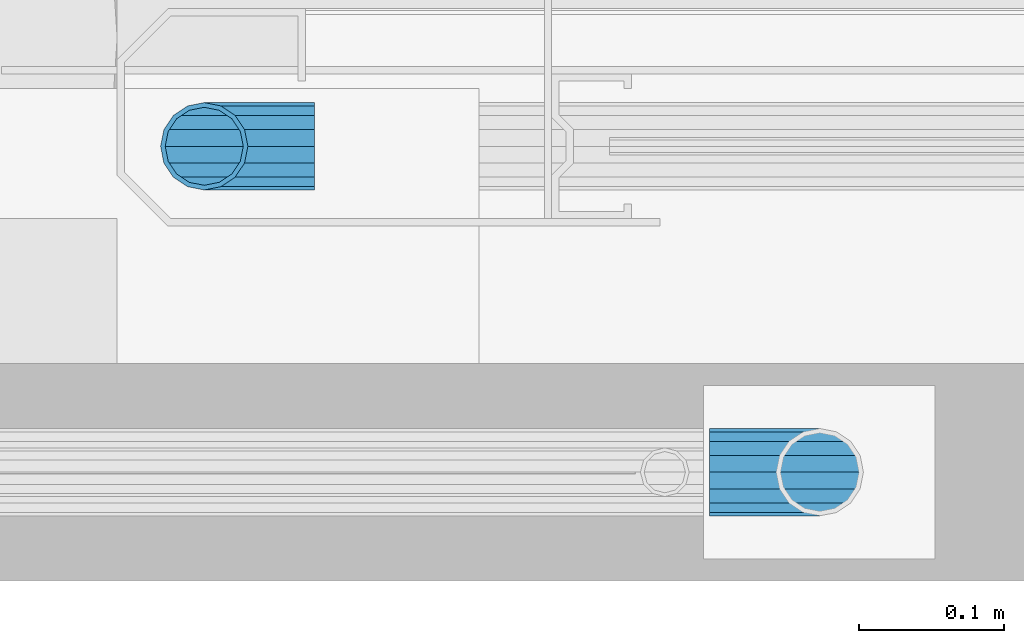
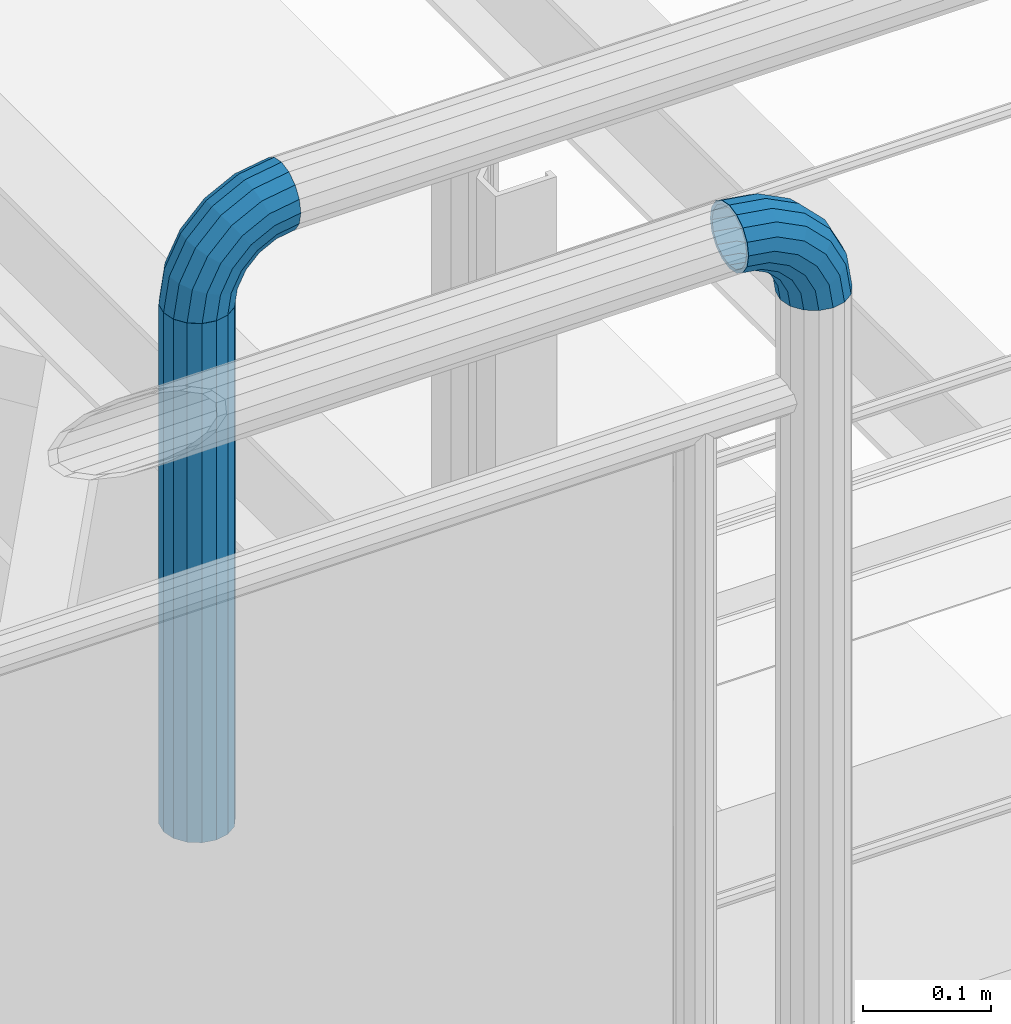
# One storey, part 20 of 31: 3 beams.
"""IFC2X3 building model written with IfcOpenShell, lengths in millimetres."""

from ifc_helpers import new_model, si_unit, frame, origin_with_axes, place, context, subcontext, project, spatial, faceted_brep, material, type_object, element, save


model = new_model("IFC2X3")

# Units and contexts
model_context = context("Model", 3, precision=1e-05, world=origin_with_axes())
body_context = subcontext(model_context, "Body", "Model", "MODEL_VIEW")
ifc_project = project(units=[si_unit("LENGTHUNIT", "METRE", prefix="MILLI"), si_unit("AREAUNIT", "SQUARE_METRE"), si_unit("VOLUMEUNIT", "CUBIC_METRE"), si_unit("MASSUNIT", "GRAM", prefix="KILO"), si_unit("TIMEUNIT", "SECOND"), si_unit("PLANEANGLEUNIT", "RADIAN"), si_unit("SOLIDANGLEUNIT", "STERADIAN"), si_unit("THERMODYNAMICTEMPERATUREUNIT", "DEGREE_CELSIUS"), si_unit("LUMINOUSINTENSITYUNIT", "LUMEN")], contexts=[model_context])

# Site, building, storey
site_placement = place(None, origin_with_axes())
site = spatial("IfcSite", under=ifc_project, at=site_placement, Name="Undefined", CompositionType="ELEMENT")
building_placement = place(site_placement, origin_with_axes())
building = spatial("IfcBuilding", under=site, at=building_placement, Name="Undefined", CompositionType="ELEMENT")
storey_placement = place(building_placement, origin_with_axes())
storey = spatial("IfcBuildingStorey", under=building, at=storey_placement, Name="Undefined", CompositionType="ELEMENT", Elevation=0.0)

# Beams
ifc_material = material(Name="STEEL/S355J2+N")
beam_type = type_object("IfcBeamType", Name="CFCHS60.3*3.2", PredefinedType="NOTDEFINED")
beam_1_placement = place(storey_placement, frame((3509.15, -625.0, 1169.85), z_axis=(1.0, 0.0, 0.0), x_axis=(0.0, 0.0, -1.0)))
element("IfcBeam", 1, at=beam_1_placement, inside=storey, type_object=beam_type, material=ifc_material, Name="LKREKKVERK", context=body_context, shape_type="Brep", body=[
    faceted_brep([(11.5379054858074, -27.8549679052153, 0.0), (21.3192694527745, -21.3192694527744, 0.0), (23.9955348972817, -21.3192694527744, 16.8972750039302), (14.6929049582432, -27.8549679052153, 19.9198826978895), (31.7623597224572, -21.3192694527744, 32.1405270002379), (23.8490700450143, -27.8549679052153, 37.8898684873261), (43.8594729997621, -21.3192694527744, 44.2376402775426), (38.1101315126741, -27.8549679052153, 52.1509299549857), (59.10272499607, -21.3192694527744, 52.0044651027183), (56.0801173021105, -27.8549679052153, 61.3070950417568), (47.7010601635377, -11.5379054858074, 38.9501491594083), (61.1223668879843, -11.5379054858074, 45.7886465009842), (37.0498508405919, -11.5379054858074, 28.2989398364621), (30.2113534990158, -11.5379054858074, 14.8776331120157), (27.8549679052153, -11.5379054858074, 0.0), (30.1500000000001, 0.0, 0.0), (32.3940587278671, 0.0, 14.1684291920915), (38.9065708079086, 0.0, 26.9499538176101), (49.0500461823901, 0.0, 37.0934291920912), (61.8315708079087, 0.0, 43.6059412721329), (47.7010601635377, 11.5379054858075, 38.9501491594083), (61.1223668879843, 11.5379054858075, 45.7886465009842), (37.0498508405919, 11.5379054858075, 28.2989398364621), (30.2113534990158, 11.5379054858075, 14.8776331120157), (27.8549679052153, 11.5379054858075, 0.0), (21.3192694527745, 21.3192694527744, 0.0), (23.9955348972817, 21.3192694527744, 16.8972750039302), (31.7623597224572, 21.3192694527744, 32.1405270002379), (43.8594729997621, 21.3192694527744, 44.2376402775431), (59.10272499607, 21.3192694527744, 52.0044651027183), (38.1101315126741, 27.8549679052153, 52.1509299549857), (56.0801173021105, 27.8549679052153, 61.3070950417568), (23.8490700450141, 27.8549679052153, 37.8898684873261), (14.6929049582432, 27.8549679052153, 19.9198826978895), (11.5379054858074, 27.8549679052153, 0.0), (0.0, 30.15, 0.0), (3.71970476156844, 30.15, 23.485291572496), (14.514708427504, 30.15, 44.6716791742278), (31.3283208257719, 30.15, 61.485291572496), (52.514708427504, 30.15, 72.2802952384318), (24.54651013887, 27.8549679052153, 70.8196531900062), (48.9492995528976, 27.8549679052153, 83.2534954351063), (5.18034680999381, 27.8549679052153, 51.45348986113), (-7.25349543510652, 27.8549679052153, 27.0507004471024), (-11.5379054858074, 27.8549679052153, 0.0), (-21.3192694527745, 21.3192694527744, 0.0), (-16.556125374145, 21.3192694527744, 30.0733081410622), (-2.73294286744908, 21.3192694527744, 57.2028313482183), (18.7971686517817, 21.3192694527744, 78.7329428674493), (45.9266918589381, 21.3192694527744, 92.5561253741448), (14.9555814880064, 11.5379054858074, 84.0204339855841), (43.9070499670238, 11.5379054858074, 98.7719439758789), (-8.02043398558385, 11.5379054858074, 61.0444185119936), (-22.7719439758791, 11.5379054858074, 32.0929500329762), (-27.8549679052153, 11.5379054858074, 0.0), (-30.1500000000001, 0.0, 0.0), (-24.9546492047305, 0.0, 32.8021539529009), (-9.8771539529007, 0.0, 62.3934045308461), (13.6065954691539, 0.0, 85.8771539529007), (43.1978460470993, 0.0, 100.954649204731), (14.9555814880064, -11.5379054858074, 84.0204339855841), (43.9070499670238, -11.5379054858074, 98.7719439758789), (-8.02043398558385, -11.5379054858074, 61.0444185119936), (-22.7719439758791, -11.5379054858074, 32.0929500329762), (-27.8549679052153, -11.5379054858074, 0.0), (-21.3192694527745, -21.3192694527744, 0.0), (-16.556125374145, -21.3192694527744, 30.0733081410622), (-2.73294286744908, -21.3192694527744, 57.2028313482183), (18.7971686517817, -21.3192694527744, 78.7329428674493), (45.9266918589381, -21.3192694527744, 92.5561253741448), (24.54651013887, -27.8549679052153, 70.8196531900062), (48.9492995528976, -27.8549679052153, 83.2534954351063), (5.18034680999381, -27.8549679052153, 51.45348986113), (-7.25349543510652, -27.8549679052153, 27.0507004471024), (-11.5379054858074, -27.8549679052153, 0.0), (0.0, -30.15, 0.0), (3.71970476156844, -30.15, 23.485291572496), (14.514708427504, -30.15, 44.6716791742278), (31.3283208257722, -30.15, 61.485291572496), (52.514708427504, -30.15, 72.2802952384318), (76.0, -30.15, 76.0), (76.0, -27.8549679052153, 87.5379054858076), (76.0, -21.3192694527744, 97.3192694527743), (76.0, -11.5379054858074, 103.854967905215), (76.0, 0.0, 106.15), (76.0, 11.5379054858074, 103.854967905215), (76.0, 21.3192694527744, 97.3192694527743), (76.0, 27.8549679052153, 87.5379054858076), (76.0, 30.15, 76.0), (76.0, 27.8549679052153, 64.4620945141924), (76.0, 21.3192694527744, 54.6807305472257), (76.0, 11.5379054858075, 48.1450320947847), (76.0, 0.0, 45.8499999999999), (76.0, -11.5379054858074, 48.1450320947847), (76.0, -21.3192694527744, 54.6807305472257), (76.0, -27.8549679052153, 64.4620945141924), (10.3133185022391, -24.8985534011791, 0.0), (19.0565277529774, -19.0565277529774, 0.0), (24.8985534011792, -10.3133185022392, 0.0), (26.95, 0.0, 0.0), (24.8985534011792, 10.3133185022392, 0.0), (19.0565277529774, 19.0565277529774, 0.0), (10.3133185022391, 24.8985534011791, 0.0), (0.0, 26.95, 0.0), (-10.3133185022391, 24.8985534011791, 0.0), (-19.0565277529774, 19.0565277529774, 0.0), (-24.8985534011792, 10.3133185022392, 0.0), (-26.95, 0.0, 0.0), (-24.8985534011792, -10.3133185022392, 0.0), (-19.0565277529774, -19.0565277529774, 0.0), (-10.3133185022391, -24.8985534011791, 0.0), (0.0, -26.95, 0.0), (3.71970476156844, -26.95, 23.485291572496), (13.5282535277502, -24.8985534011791, 20.2983008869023), (21.8435396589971, -19.0565277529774, 17.5965006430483), (27.3996362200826, -10.3133185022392, 15.7912154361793), (29.3506778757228, 0.0, 15.1572835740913), (27.3996362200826, 10.3133185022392, 15.7912154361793), (21.8435396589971, 19.0565277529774, 17.5965006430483), (13.5282535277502, 24.8985534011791, 20.2983008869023), (3.71970476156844, 26.95, 23.485291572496), (-6.08884400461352, 24.8985534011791, 26.6722822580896), (-14.4041301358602, 19.0565277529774, 29.374082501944), (-19.9602266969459, 10.3133185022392, 31.1793677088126), (-21.9112683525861, 0.0, 31.8132995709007), (-19.9602266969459, -10.3133185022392, 31.1793677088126), (-14.4041301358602, -19.0565277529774, 29.374082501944), (-6.08884400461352, -24.8985534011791, 26.6722822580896), (6.17105849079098, -24.8985534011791, 50.7336956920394), (14.514708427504, -26.95, 44.6716791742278), (22.8583583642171, -24.8985534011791, 38.6096626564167), (29.9317632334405, -19.0565277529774, 33.4705332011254), (34.6580612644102, -10.3133185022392, 30.0366766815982), (36.3177164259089, 0.0, 28.8308666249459), (34.6580612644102, 10.3133185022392, 30.0366766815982), (29.9317632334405, 19.0565277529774, 33.4705332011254), (22.8583583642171, 24.8985534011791, 38.6096626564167), (14.514708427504, 26.95, 44.6716791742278), (6.17105849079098, 24.8985534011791, 50.7336956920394), (-0.90234637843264, 19.0565277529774, 55.8728251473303), (-5.62864440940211, 10.3133185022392, 59.3066816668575), (-7.28829957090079, 0.0, 60.5124917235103), (-5.62864440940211, -10.3133185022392, 59.3066816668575), (-0.90234637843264, -19.0565277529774, 55.8728251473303), (20.1271748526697, -19.0565277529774, 76.9023463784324), (25.2663043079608, -24.8985534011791, 69.828941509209), (31.3283208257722, -26.95, 61.485291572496), (37.3903373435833, -24.8985534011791, 53.1416416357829), (42.5294667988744, -19.0565277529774, 46.0682367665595), (45.9633233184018, -10.3133185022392, 41.3419387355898), (47.1691333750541, 0.0, 39.6822835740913), (45.9633233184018, 10.3133185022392, 41.3419387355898), (42.5294667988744, 19.0565277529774, 46.0682367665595), (37.3903373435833, 24.8985534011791, 53.1416416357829), (31.3283208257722, 26.95, 61.485291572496), (25.2663043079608, 24.8985534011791, 69.828941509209), (20.1271748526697, 19.0565277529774, 76.9023463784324), (16.6933183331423, 10.3133185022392, 81.6286444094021), (15.48750827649, 0.0, 83.288299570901), (16.6933183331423, -10.3133185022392, 81.6286444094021), (44.8206322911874, -10.3133185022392, 95.9602266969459), (46.6259174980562, -19.0565277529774, 90.4041301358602), (49.3277177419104, -24.8985534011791, 82.0888440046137), (52.514708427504, -26.95, 72.2802952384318), (55.7016991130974, -24.8985534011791, 62.4717464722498), (58.4034993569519, -19.0565277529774, 54.1564603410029), (60.2087845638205, -10.3133185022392, 48.6003637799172), (60.8427164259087, 0.0, 46.6493221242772), (60.2087845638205, 10.3133185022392, 48.6003637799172), (58.4034993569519, 19.0565277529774, 54.1564603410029), (55.7016991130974, 24.8985534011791, 62.4717464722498), (52.514708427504, 26.95, 72.2802952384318), (49.3277177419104, 24.8985534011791, 82.0888440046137), (46.6259174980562, 19.0565277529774, 90.4041301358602), (44.8206322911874, 10.3133185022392, 95.9602266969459), (44.1867004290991, 0.0, 97.9112683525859), (76.0, 0.0, 102.95), (76.0, -10.3133185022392, 100.898553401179), (76.0, -19.0565277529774, 95.0565277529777), (76.0, -24.8985534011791, 86.3133185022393), (76.0, -26.95, 76.0), (76.0, -24.8985534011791, 65.6866814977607), (76.0, -19.0565277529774, 56.9434722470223), (76.0, -10.3133185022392, 51.101446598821), (76.0, 0.0, 49.0500000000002), (76.0, 10.3133185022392, 51.101446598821), (76.0, 19.0565277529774, 56.9434722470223), (76.0, 24.8985534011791, 65.6866814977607), (76.0, 26.95, 76.0), (76.0, 24.8985534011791, 86.3133185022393), (76.0, 19.0565277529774, 95.0565277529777), (76.0, 10.3133185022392, 100.898553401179)], [[[0, 1, 2, 3]], [[3, 2, 4, 5]], [[5, 4, 6, 7]], [[7, 6, 8, 9]], [[6, 10, 11, 8]], [[4, 12, 10, 6]], [[2, 13, 12, 4]], [[1, 14, 13, 2]], [[14, 15, 16, 13]], [[13, 16, 17, 12]], [[12, 17, 18, 10]], [[10, 18, 19, 11]], [[18, 20, 21, 19]], [[17, 22, 20, 18]], [[16, 23, 22, 17]], [[15, 24, 23, 16]], [[24, 25, 26, 23]], [[23, 26, 27, 22]], [[22, 27, 28, 20]], [[20, 28, 29, 21]], [[28, 30, 31, 29]], [[27, 32, 30, 28]], [[26, 33, 32, 27]], [[25, 34, 33, 26]], [[34, 35, 36, 33]], [[33, 36, 37, 32]], [[32, 37, 38, 30]], [[30, 38, 39, 31]], [[38, 40, 41, 39]], [[37, 42, 40, 38]], [[36, 43, 42, 37]], [[35, 44, 43, 36]], [[44, 45, 46, 43]], [[43, 46, 47, 42]], [[42, 47, 48, 40]], [[40, 48, 49, 41]], [[48, 50, 51, 49]], [[47, 52, 50, 48]], [[46, 53, 52, 47]], [[45, 54, 53, 46]], [[54, 55, 56, 53]], [[53, 56, 57, 52]], [[52, 57, 58, 50]], [[50, 58, 59, 51]], [[58, 60, 61, 59]], [[57, 62, 60, 58]], [[56, 63, 62, 57]], [[55, 64, 63, 56]], [[64, 65, 66, 63]], [[63, 66, 67, 62]], [[62, 67, 68, 60]], [[60, 68, 69, 61]], [[68, 70, 71, 69]], [[67, 72, 70, 68]], [[66, 73, 72, 67]], [[65, 74, 73, 66]], [[74, 75, 76, 73]], [[73, 76, 77, 72]], [[72, 77, 78, 70]], [[70, 78, 79, 71]], [[71, 79, 80, 81]], [[69, 71, 81, 82]], [[61, 69, 82, 83]], [[59, 61, 83, 84]], [[51, 59, 84, 85]], [[49, 51, 85, 86]], [[41, 49, 86, 87]], [[39, 41, 87, 88]], [[31, 39, 88, 89]], [[29, 31, 89, 90]], [[21, 29, 90, 91]], [[19, 21, 91, 92]], [[11, 19, 92, 93]], [[8, 11, 93, 94]], [[9, 8, 94, 95]], [[79, 9, 95, 80]], [[78, 7, 9, 79]], [[77, 5, 7, 78]], [[76, 3, 5, 77]], [[75, 0, 3, 76]], [[74, 65, 64, 55, 54, 45, 44, 35, 34, 25, 24, 15, 14, 1, 0, 75], [96, 97, 98, 99, 100, 101, 102, 103, 104, 105, 106, 107, 108, 109, 110, 111]], [[96, 111, 112, 113]], [[97, 96, 113, 114]], [[98, 97, 114, 115]], [[99, 98, 115, 116]], [[100, 99, 116, 117]], [[101, 100, 117, 118]], [[102, 101, 118, 119]], [[103, 102, 119, 120]], [[104, 103, 120, 121]], [[105, 104, 121, 122]], [[106, 105, 122, 123]], [[107, 106, 123, 124]], [[108, 107, 124, 125]], [[109, 108, 125, 126]], [[110, 109, 126, 127]], [[111, 110, 127, 112]], [[112, 127, 128, 129]], [[113, 112, 129, 130]], [[114, 113, 130, 131]], [[115, 114, 131, 132]], [[116, 115, 132, 133]], [[117, 116, 133, 134]], [[118, 117, 134, 135]], [[119, 118, 135, 136]], [[120, 119, 136, 137]], [[121, 120, 137, 138]], [[122, 121, 138, 139]], [[123, 122, 139, 140]], [[124, 123, 140, 141]], [[125, 124, 141, 142]], [[126, 125, 142, 143]], [[127, 126, 143, 128]], [[128, 143, 144, 145]], [[129, 128, 145, 146]], [[130, 129, 146, 147]], [[131, 130, 147, 148]], [[132, 131, 148, 149]], [[133, 132, 149, 150]], [[134, 133, 150, 151]], [[135, 134, 151, 152]], [[136, 135, 152, 153]], [[137, 136, 153, 154]], [[138, 137, 154, 155]], [[139, 138, 155, 156]], [[140, 139, 156, 157]], [[141, 140, 157, 158]], [[142, 141, 158, 159]], [[143, 142, 159, 144]], [[144, 159, 160, 161]], [[145, 144, 161, 162]], [[146, 145, 162, 163]], [[147, 146, 163, 164]], [[148, 147, 164, 165]], [[149, 148, 165, 166]], [[150, 149, 166, 167]], [[151, 150, 167, 168]], [[152, 151, 168, 169]], [[153, 152, 169, 170]], [[154, 153, 170, 171]], [[155, 154, 171, 172]], [[156, 155, 172, 173]], [[157, 156, 173, 174]], [[158, 157, 174, 175]], [[159, 158, 175, 160]], [[160, 175, 176, 177]], [[161, 160, 177, 178]], [[162, 161, 178, 179]], [[163, 162, 179, 180]], [[164, 163, 180, 181]], [[165, 164, 181, 182]], [[166, 165, 182, 183]], [[167, 166, 183, 184]], [[168, 167, 184, 185]], [[169, 168, 185, 186]], [[170, 169, 186, 187]], [[171, 170, 187, 188]], [[172, 171, 188, 189]], [[173, 172, 189, 190]], [[174, 173, 190, 191]], [[175, 174, 191, 176]], [[82, 81, 80, 95, 94, 93, 92, 91, 90, 89, 88, 87, 86, 85, 84, 83], [190, 189, 188, 187, 186, 185, 184, 183, 182, 181, 180, 179, 178, 177, 176, 191]]]),
])
beam_2_placement = place(storey_placement, frame((3160.15, -400.0, 1093.85), z_axis=(0.0, -1.0, 0.0), x_axis=(0.0, 0.0, -1.0)))
element("IfcBeam", 2, at=beam_2_placement, inside=storey, type_object=beam_type, material=ifc_material, Name="REKKVERK", context=body_context, shape_type="Brep", body=[
    faceted_brep([(0.0, -26.95, 0.0), (0.0, -24.898553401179, 10.3133185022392), (493.85, -24.8985534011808, 10.3133185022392), (493.85, -26.9500000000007, 0.0), (0.0, -19.0565277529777, 19.0565277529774), (493.85, -19.0565277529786, 19.0565277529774), (0.0, -10.3133185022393, 24.8985534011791), (493.85, -10.313318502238, 24.8985534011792), (0.0, 0.0, 26.95), (493.85, 0.0, 26.95), (0.0, 10.3133185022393, 24.8985534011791), (493.85, 10.313318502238, 24.8985534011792), (0.0, 19.0565277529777, 19.0565277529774), (493.85, 19.0565277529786, 19.0565277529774), (0.0, 24.898553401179, 10.3133185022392), (493.85, 24.8985534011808, 10.3133185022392), (0.0, 26.95, 0.0), (493.85, 26.9500000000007, 0.0), (0.0, 24.898553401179, -10.3133185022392), (493.85, 24.8985534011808, -10.3133185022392), (0.0, 19.0565277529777, -19.0565277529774), (493.85, 19.0565277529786, -19.0565277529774), (0.0, 10.3133185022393, -24.8985534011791), (493.85, 10.313318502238, -24.8985534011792), (0.0, 0.0, -26.95), (493.85, 0.0, -26.95), (0.0, -10.3133185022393, -24.8985534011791), (493.85, -10.313318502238, -24.8985534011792), (0.0, -19.0565277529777, -19.0565277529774), (493.85, -19.0565277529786, -19.0565277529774), (0.0, -24.898553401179, -10.3133185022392), (493.85, -24.8985534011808, -10.3133185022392), (0.0, -30.15, 0.0), (0.0, -27.8549679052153, -11.5379054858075), (493.85, -27.8549679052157, -11.5379054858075), (493.85, -30.1500000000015, 0.0), (0.0, -21.3192694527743, -21.3192694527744), (493.85, -21.3192694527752, -21.3192694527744), (0.0, -11.5379054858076, -27.8549679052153), (493.85, -11.5379054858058, -27.8549679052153), (0.0, 0.0, -30.15), (493.85, 0.0, -30.15), (0.0, 11.5379054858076, -27.8549679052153), (493.85, 11.5379054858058, -27.8549679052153), (0.0, 21.3192694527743, -21.3192694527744), (493.85, 21.3192694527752, -21.3192694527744), (0.0, 27.8549679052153, -11.5379054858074), (493.85, 27.8549679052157, -11.5379054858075), (0.0, 30.15, 0.0), (493.85, 30.1500000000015, 0.0), (0.0, 27.8549679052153, 11.5379054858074), (493.85, 27.8549679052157, 11.5379054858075), (0.0, 21.3192694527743, 21.3192694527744), (493.85, 21.3192694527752, 21.3192694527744), (0.0, 11.5379054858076, 27.8549679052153), (493.85, 11.5379054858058, 27.8549679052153), (0.0, 0.0, 30.15), (493.85, 0.0, 30.15), (0.0, -11.5379054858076, 27.8549679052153), (493.85, -11.5379054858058, 27.8549679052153), (0.0, -21.3192694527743, 21.3192694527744), (493.85, -21.3192694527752, 21.3192694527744), (0.0, -27.8549679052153, 11.5379054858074), (493.85, -27.8549679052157, 11.5379054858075)], [[[0, 1, 2, 3]], [[1, 4, 5, 2]], [[4, 6, 7, 5]], [[6, 8, 9, 7]], [[8, 10, 11, 9]], [[10, 12, 13, 11]], [[12, 14, 15, 13]], [[14, 16, 17, 15]], [[16, 18, 19, 17]], [[18, 20, 21, 19]], [[20, 22, 23, 21]], [[22, 24, 25, 23]], [[24, 26, 27, 25]], [[26, 28, 29, 27]], [[28, 30, 31, 29]], [[30, 0, 3, 31]], [[32, 33, 34, 35]], [[33, 36, 37, 34]], [[36, 38, 39, 37]], [[38, 40, 41, 39]], [[40, 42, 43, 41]], [[42, 44, 45, 43]], [[44, 46, 47, 45]], [[46, 48, 49, 47]], [[48, 50, 51, 49]], [[50, 52, 53, 51]], [[52, 54, 55, 53]], [[54, 56, 57, 55]], [[56, 58, 59, 57]], [[58, 60, 61, 59]], [[60, 62, 63, 61]], [[62, 32, 35, 63]], [[37, 39, 41, 43, 45, 47, 49, 51, 53, 55, 57, 59, 61, 63, 35, 34], [5, 7, 9, 11, 13, 15, 17, 19, 21, 23, 25, 27, 29, 31, 3, 2]], [[62, 60, 58, 56, 54, 52, 50, 48, 46, 44, 42, 40, 38, 36, 33, 32], [30, 28, 26, 24, 22, 20, 18, 16, 14, 12, 10, 8, 6, 4, 1, 0]]]),
])
beam_3_placement = place(storey_placement, frame((3236.15, -400.0, 1169.85), z_axis=(-1.0, 0.0, 0.0), x_axis=(0.0, 0.0, -1.0)))
element("IfcBeam", 3, at=beam_3_placement, inside=storey, type_object=beam_type, material=ifc_material, Name="REKKVERK", context=body_context, shape_type="Brep", body=[
    faceted_brep([(11.5379054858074, -27.8549679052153, 0.0), (21.3192694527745, -21.3192694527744, 0.0), (23.9955348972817, -21.3192694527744, 16.8972750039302), (14.6929049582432, -27.8549679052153, 19.9198826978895), (31.7623597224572, -21.3192694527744, 32.1405270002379), (23.8490700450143, -27.8549679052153, 37.8898684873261), (43.8594729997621, -21.3192694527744, 44.2376402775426), (38.1101315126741, -27.8549679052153, 52.1509299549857), (59.10272499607, -21.3192694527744, 52.0044651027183), (56.0801173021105, -27.8549679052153, 61.3070950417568), (47.7010601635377, -11.5379054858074, 38.9501491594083), (61.1223668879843, -11.5379054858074, 45.7886465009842), (37.0498508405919, -11.5379054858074, 28.2989398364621), (30.2113534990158, -11.5379054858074, 14.8776331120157), (27.8549679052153, -11.5379054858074, 0.0), (30.1500000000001, 0.0, 0.0), (32.3940587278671, 0.0, 14.1684291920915), (38.9065708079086, 0.0, 26.9499538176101), (49.0500461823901, 0.0, 37.0934291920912), (61.8315708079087, 0.0, 43.6059412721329), (47.7010601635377, 11.5379054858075, 38.9501491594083), (61.1223668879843, 11.5379054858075, 45.7886465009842), (37.0498508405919, 11.5379054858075, 28.2989398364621), (30.2113534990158, 11.5379054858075, 14.8776331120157), (27.8549679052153, 11.5379054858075, 0.0), (21.3192694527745, 21.3192694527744, 0.0), (23.9955348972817, 21.3192694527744, 16.8972750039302), (31.7623597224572, 21.3192694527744, 32.1405270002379), (43.8594729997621, 21.3192694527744, 44.2376402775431), (59.10272499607, 21.3192694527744, 52.0044651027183), (38.1101315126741, 27.8549679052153, 52.1509299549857), (56.0801173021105, 27.8549679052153, 61.3070950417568), (23.8490700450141, 27.8549679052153, 37.8898684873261), (14.6929049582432, 27.8549679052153, 19.9198826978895), (11.5379054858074, 27.8549679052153, 0.0), (0.0, 30.15, 0.0), (3.71970476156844, 30.15, 23.485291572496), (14.514708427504, 30.15, 44.6716791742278), (31.3283208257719, 30.15, 61.485291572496), (52.514708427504, 30.15, 72.2802952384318), (24.54651013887, 27.8549679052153, 70.8196531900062), (48.9492995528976, 27.8549679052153, 83.2534954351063), (5.18034680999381, 27.8549679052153, 51.45348986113), (-7.25349543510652, 27.8549679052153, 27.0507004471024), (-11.5379054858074, 27.8549679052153, 0.0), (-21.3192694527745, 21.3192694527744, 0.0), (-16.556125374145, 21.3192694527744, 30.0733081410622), (-2.73294286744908, 21.3192694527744, 57.2028313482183), (18.7971686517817, 21.3192694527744, 78.7329428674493), (45.9266918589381, 21.3192694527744, 92.5561253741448), (14.9555814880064, 11.5379054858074, 84.0204339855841), (43.9070499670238, 11.5379054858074, 98.7719439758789), (-8.02043398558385, 11.5379054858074, 61.0444185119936), (-22.7719439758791, 11.5379054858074, 32.0929500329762), (-27.8549679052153, 11.5379054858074, 0.0), (-30.1500000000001, 0.0, 0.0), (-24.9546492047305, 0.0, 32.8021539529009), (-9.8771539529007, 0.0, 62.3934045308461), (13.6065954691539, 0.0, 85.8771539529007), (43.1978460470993, 0.0, 100.954649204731), (14.9555814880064, -11.5379054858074, 84.0204339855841), (43.9070499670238, -11.5379054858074, 98.7719439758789), (-8.02043398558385, -11.5379054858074, 61.0444185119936), (-22.7719439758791, -11.5379054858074, 32.0929500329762), (-27.8549679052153, -11.5379054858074, 0.0), (-21.3192694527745, -21.3192694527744, 0.0), (-16.556125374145, -21.3192694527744, 30.0733081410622), (-2.73294286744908, -21.3192694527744, 57.2028313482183), (18.7971686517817, -21.3192694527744, 78.7329428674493), (45.9266918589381, -21.3192694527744, 92.5561253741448), (24.54651013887, -27.8549679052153, 70.8196531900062), (48.9492995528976, -27.8549679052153, 83.2534954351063), (5.18034680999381, -27.8549679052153, 51.45348986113), (-7.25349543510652, -27.8549679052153, 27.0507004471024), (-11.5379054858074, -27.8549679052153, 0.0), (0.0, -30.15, 0.0), (3.71970476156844, -30.15, 23.485291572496), (14.514708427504, -30.15, 44.6716791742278), (31.3283208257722, -30.15, 61.485291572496), (52.514708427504, -30.15, 72.2802952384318), (76.0, -30.15, 76.0), (76.0, -27.8549679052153, 87.5379054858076), (76.0, -21.3192694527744, 97.3192694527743), (76.0, -11.5379054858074, 103.854967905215), (76.0, 0.0, 106.15), (76.0, 11.5379054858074, 103.854967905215), (76.0, 21.3192694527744, 97.3192694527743), (76.0, 27.8549679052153, 87.5379054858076), (76.0, 30.15, 76.0), (76.0, 27.8549679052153, 64.4620945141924), (76.0, 21.3192694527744, 54.6807305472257), (76.0, 11.5379054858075, 48.1450320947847), (76.0, 0.0, 45.8499999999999), (76.0, -11.5379054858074, 48.1450320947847), (76.0, -21.3192694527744, 54.6807305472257), (76.0, -27.8549679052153, 64.4620945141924), (10.3133185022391, -24.8985534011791, 0.0), (19.0565277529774, -19.0565277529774, 0.0), (24.8985534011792, -10.3133185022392, 0.0), (26.95, 0.0, 0.0), (24.8985534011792, 10.3133185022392, 0.0), (19.0565277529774, 19.0565277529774, 0.0), (10.3133185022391, 24.8985534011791, 0.0), (0.0, 26.95, 0.0), (-10.3133185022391, 24.8985534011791, 0.0), (-19.0565277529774, 19.0565277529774, 0.0), (-24.8985534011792, 10.3133185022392, 0.0), (-26.95, 0.0, 0.0), (-24.8985534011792, -10.3133185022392, 0.0), (-19.0565277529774, -19.0565277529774, 0.0), (-10.3133185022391, -24.8985534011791, 0.0), (0.0, -26.95, 0.0), (3.71970476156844, -26.95, 23.485291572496), (13.5282535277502, -24.8985534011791, 20.2983008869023), (21.8435396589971, -19.0565277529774, 17.5965006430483), (27.3996362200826, -10.3133185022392, 15.7912154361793), (29.3506778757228, 0.0, 15.1572835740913), (27.3996362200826, 10.3133185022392, 15.7912154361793), (21.8435396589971, 19.0565277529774, 17.5965006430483), (13.5282535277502, 24.8985534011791, 20.2983008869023), (3.71970476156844, 26.95, 23.485291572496), (-6.08884400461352, 24.8985534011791, 26.6722822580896), (-14.4041301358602, 19.0565277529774, 29.374082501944), (-19.9602266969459, 10.3133185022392, 31.1793677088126), (-21.9112683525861, 0.0, 31.8132995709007), (-19.9602266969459, -10.3133185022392, 31.1793677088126), (-14.4041301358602, -19.0565277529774, 29.374082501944), (-6.08884400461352, -24.8985534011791, 26.6722822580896), (6.17105849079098, -24.8985534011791, 50.7336956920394), (14.514708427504, -26.95, 44.6716791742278), (22.8583583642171, -24.8985534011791, 38.6096626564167), (29.9317632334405, -19.0565277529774, 33.4705332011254), (34.6580612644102, -10.3133185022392, 30.0366766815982), (36.3177164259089, 0.0, 28.8308666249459), (34.6580612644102, 10.3133185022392, 30.0366766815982), (29.9317632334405, 19.0565277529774, 33.4705332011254), (22.8583583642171, 24.8985534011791, 38.6096626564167), (14.514708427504, 26.95, 44.6716791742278), (6.17105849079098, 24.8985534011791, 50.7336956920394), (-0.90234637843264, 19.0565277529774, 55.8728251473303), (-5.62864440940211, 10.3133185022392, 59.3066816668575), (-7.28829957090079, 0.0, 60.5124917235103), (-5.62864440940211, -10.3133185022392, 59.3066816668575), (-0.90234637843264, -19.0565277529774, 55.8728251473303), (20.1271748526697, -19.0565277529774, 76.9023463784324), (25.2663043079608, -24.8985534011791, 69.828941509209), (31.3283208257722, -26.95, 61.485291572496), (37.3903373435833, -24.8985534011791, 53.1416416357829), (42.5294667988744, -19.0565277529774, 46.0682367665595), (45.9633233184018, -10.3133185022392, 41.3419387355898), (47.1691333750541, 0.0, 39.6822835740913), (45.9633233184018, 10.3133185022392, 41.3419387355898), (42.5294667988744, 19.0565277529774, 46.0682367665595), (37.3903373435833, 24.8985534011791, 53.1416416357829), (31.3283208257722, 26.95, 61.485291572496), (25.2663043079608, 24.8985534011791, 69.828941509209), (20.1271748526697, 19.0565277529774, 76.9023463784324), (16.6933183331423, 10.3133185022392, 81.6286444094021), (15.48750827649, 0.0, 83.288299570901), (16.6933183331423, -10.3133185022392, 81.6286444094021), (44.8206322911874, -10.3133185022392, 95.9602266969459), (46.6259174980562, -19.0565277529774, 90.4041301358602), (49.3277177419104, -24.8985534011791, 82.0888440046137), (52.514708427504, -26.95, 72.2802952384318), (55.7016991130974, -24.8985534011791, 62.4717464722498), (58.4034993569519, -19.0565277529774, 54.1564603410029), (60.2087845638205, -10.3133185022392, 48.6003637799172), (60.8427164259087, 0.0, 46.6493221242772), (60.2087845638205, 10.3133185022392, 48.6003637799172), (58.4034993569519, 19.0565277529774, 54.1564603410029), (55.7016991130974, 24.8985534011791, 62.4717464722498), (52.514708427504, 26.95, 72.2802952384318), (49.3277177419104, 24.8985534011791, 82.0888440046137), (46.6259174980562, 19.0565277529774, 90.4041301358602), (44.8206322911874, 10.3133185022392, 95.9602266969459), (44.1867004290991, 0.0, 97.9112683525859), (76.0, 0.0, 102.95), (76.0, -10.3133185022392, 100.898553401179), (76.0, -19.0565277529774, 95.0565277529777), (76.0, -24.8985534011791, 86.3133185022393), (76.0, -26.95, 76.0), (76.0, -24.8985534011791, 65.6866814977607), (76.0, -19.0565277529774, 56.9434722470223), (76.0, -10.3133185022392, 51.101446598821), (76.0, 0.0, 49.0500000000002), (76.0, 10.3133185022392, 51.101446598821), (76.0, 19.0565277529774, 56.9434722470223), (76.0, 24.8985534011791, 65.6866814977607), (76.0, 26.95, 76.0), (76.0, 24.8985534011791, 86.3133185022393), (76.0, 19.0565277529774, 95.0565277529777), (76.0, 10.3133185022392, 100.898553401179)], [[[0, 1, 2, 3]], [[3, 2, 4, 5]], [[5, 4, 6, 7]], [[7, 6, 8, 9]], [[6, 10, 11, 8]], [[4, 12, 10, 6]], [[2, 13, 12, 4]], [[1, 14, 13, 2]], [[14, 15, 16, 13]], [[13, 16, 17, 12]], [[12, 17, 18, 10]], [[10, 18, 19, 11]], [[18, 20, 21, 19]], [[17, 22, 20, 18]], [[16, 23, 22, 17]], [[15, 24, 23, 16]], [[24, 25, 26, 23]], [[23, 26, 27, 22]], [[22, 27, 28, 20]], [[20, 28, 29, 21]], [[28, 30, 31, 29]], [[27, 32, 30, 28]], [[26, 33, 32, 27]], [[25, 34, 33, 26]], [[34, 35, 36, 33]], [[33, 36, 37, 32]], [[32, 37, 38, 30]], [[30, 38, 39, 31]], [[38, 40, 41, 39]], [[37, 42, 40, 38]], [[36, 43, 42, 37]], [[35, 44, 43, 36]], [[44, 45, 46, 43]], [[43, 46, 47, 42]], [[42, 47, 48, 40]], [[40, 48, 49, 41]], [[48, 50, 51, 49]], [[47, 52, 50, 48]], [[46, 53, 52, 47]], [[45, 54, 53, 46]], [[54, 55, 56, 53]], [[53, 56, 57, 52]], [[52, 57, 58, 50]], [[50, 58, 59, 51]], [[58, 60, 61, 59]], [[57, 62, 60, 58]], [[56, 63, 62, 57]], [[55, 64, 63, 56]], [[64, 65, 66, 63]], [[63, 66, 67, 62]], [[62, 67, 68, 60]], [[60, 68, 69, 61]], [[68, 70, 71, 69]], [[67, 72, 70, 68]], [[66, 73, 72, 67]], [[65, 74, 73, 66]], [[74, 75, 76, 73]], [[73, 76, 77, 72]], [[72, 77, 78, 70]], [[70, 78, 79, 71]], [[71, 79, 80, 81]], [[69, 71, 81, 82]], [[61, 69, 82, 83]], [[59, 61, 83, 84]], [[51, 59, 84, 85]], [[49, 51, 85, 86]], [[41, 49, 86, 87]], [[39, 41, 87, 88]], [[31, 39, 88, 89]], [[29, 31, 89, 90]], [[21, 29, 90, 91]], [[19, 21, 91, 92]], [[11, 19, 92, 93]], [[8, 11, 93, 94]], [[9, 8, 94, 95]], [[79, 9, 95, 80]], [[78, 7, 9, 79]], [[77, 5, 7, 78]], [[76, 3, 5, 77]], [[75, 0, 3, 76]], [[74, 65, 64, 55, 54, 45, 44, 35, 34, 25, 24, 15, 14, 1, 0, 75], [96, 97, 98, 99, 100, 101, 102, 103, 104, 105, 106, 107, 108, 109, 110, 111]], [[96, 111, 112, 113]], [[97, 96, 113, 114]], [[98, 97, 114, 115]], [[99, 98, 115, 116]], [[100, 99, 116, 117]], [[101, 100, 117, 118]], [[102, 101, 118, 119]], [[103, 102, 119, 120]], [[104, 103, 120, 121]], [[105, 104, 121, 122]], [[106, 105, 122, 123]], [[107, 106, 123, 124]], [[108, 107, 124, 125]], [[109, 108, 125, 126]], [[110, 109, 126, 127]], [[111, 110, 127, 112]], [[112, 127, 128, 129]], [[113, 112, 129, 130]], [[114, 113, 130, 131]], [[115, 114, 131, 132]], [[116, 115, 132, 133]], [[117, 116, 133, 134]], [[118, 117, 134, 135]], [[119, 118, 135, 136]], [[120, 119, 136, 137]], [[121, 120, 137, 138]], [[122, 121, 138, 139]], [[123, 122, 139, 140]], [[124, 123, 140, 141]], [[125, 124, 141, 142]], [[126, 125, 142, 143]], [[127, 126, 143, 128]], [[128, 143, 144, 145]], [[129, 128, 145, 146]], [[130, 129, 146, 147]], [[131, 130, 147, 148]], [[132, 131, 148, 149]], [[133, 132, 149, 150]], [[134, 133, 150, 151]], [[135, 134, 151, 152]], [[136, 135, 152, 153]], [[137, 136, 153, 154]], [[138, 137, 154, 155]], [[139, 138, 155, 156]], [[140, 139, 156, 157]], [[141, 140, 157, 158]], [[142, 141, 158, 159]], [[143, 142, 159, 144]], [[144, 159, 160, 161]], [[145, 144, 161, 162]], [[146, 145, 162, 163]], [[147, 146, 163, 164]], [[148, 147, 164, 165]], [[149, 148, 165, 166]], [[150, 149, 166, 167]], [[151, 150, 167, 168]], [[152, 151, 168, 169]], [[153, 152, 169, 170]], [[154, 153, 170, 171]], [[155, 154, 171, 172]], [[156, 155, 172, 173]], [[157, 156, 173, 174]], [[158, 157, 174, 175]], [[159, 158, 175, 160]], [[160, 175, 176, 177]], [[161, 160, 177, 178]], [[162, 161, 178, 179]], [[163, 162, 179, 180]], [[164, 163, 180, 181]], [[165, 164, 181, 182]], [[166, 165, 182, 183]], [[167, 166, 183, 184]], [[168, 167, 184, 185]], [[169, 168, 185, 186]], [[170, 169, 186, 187]], [[171, 170, 187, 188]], [[172, 171, 188, 189]], [[173, 172, 189, 190]], [[174, 173, 190, 191]], [[175, 174, 191, 176]], [[82, 81, 80, 95, 94, 93, 92, 91, 90, 89, 88, 87, 86, 85, 84, 83], [190, 189, 188, 187, 186, 185, 184, 183, 182, 181, 180, 179, 178, 177, 176, 191]]]),
])

save(model, "model.ifc")
